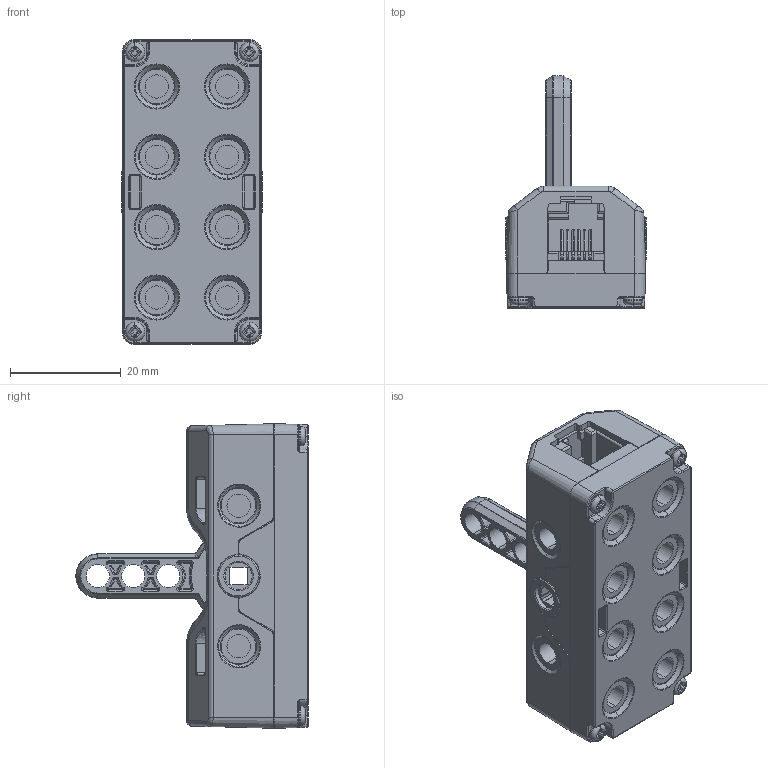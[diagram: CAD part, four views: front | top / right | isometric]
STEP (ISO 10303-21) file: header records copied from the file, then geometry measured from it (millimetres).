
FILE_DESCRIPTION (( 'STEP AP214' ), '1' );
FILE_NAME ('269-6687-000 FOR RELEASE.STEP', '2021-02-19T19:36:09', ( '' ), ( '' ), 'SwSTEP 2.0', 'SolidWorks 2019', '' );
FILE_SCHEMA (( 'AUTOMOTIVE_DESIGN' ));
Length unit declared in the file: millimetre
Products named in the file (1): 269-6687-000 FOR RELEASE
Bounding box: 25.4 x 41.97 x 55 mm (x, y, z)
Volume: 23755.2 mm3; surface area: 11002.4 mm2
Topology: 1 solids, 16 shells, 1771 faces, 4519 edges, 2798 vertices
Faces by surface type: plane 648, cylinder 466, bspline 266, torus 220, cone 95, sphere 76
Entity records: 79304 total; most frequent: CARTESIAN_POINT 22867, ORIENTED_EDGE 8962, DIRECTION 7945, EDGE_CURVE 4481, AXIS2_PLACEMENT_3D 2943, VERTEX_POINT 2792, LINE 2059, VECTOR 2059
